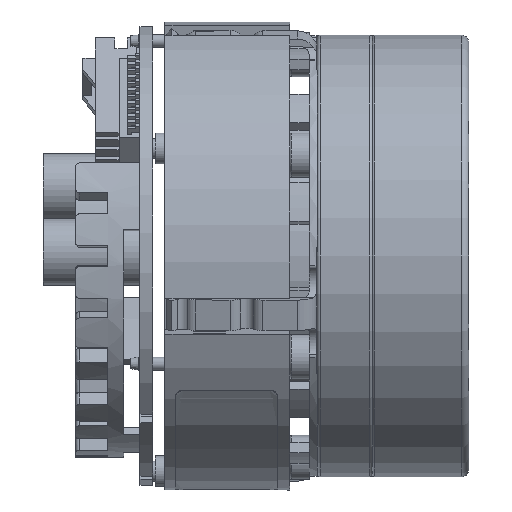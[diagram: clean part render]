
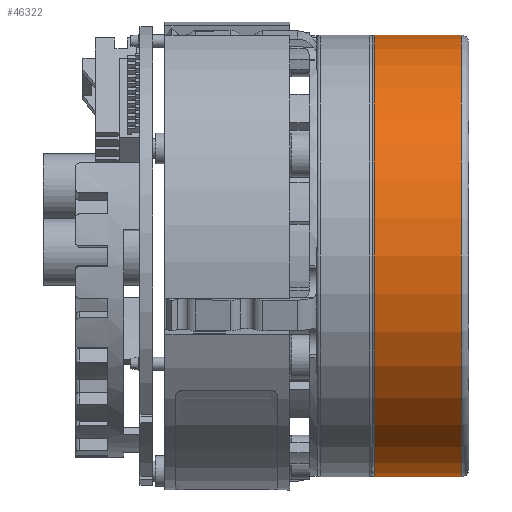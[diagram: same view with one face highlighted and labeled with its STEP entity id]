
A CAD part, front view. The second image highlights one B-rep face of the part: STEP entity #46322.
In plain terms, the highlighted cylindrical face has radius 27.4 mm (diameter 54.8 mm), a full revolution.
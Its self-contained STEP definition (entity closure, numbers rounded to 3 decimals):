
#2224 = CARTESIAN_POINT ( 'NONE',  ( 12., 0., 0. ) ) ;
#2584 = ORIENTED_EDGE ( 'NONE', *, *, #52175, .T. ) ;
#5492 = VERTEX_POINT ( 'NONE', #48035 ) ;
#7926 = AXIS2_PLACEMENT_3D ( 'NONE', #47080, #23044, #51037 ) ;
#8072 = AXIS2_PLACEMENT_3D ( 'NONE', #45618, #21548, #49607 ) ;
#10197 = DIRECTION ( 'NONE',  ( -1., 0., 0. ) ) ;
#11348 = FACE_OUTER_BOUND ( 'NONE', #45621, .T. ) ;
#15014 = CARTESIAN_POINT ( 'NONE',  ( 11.1, 0., -27.4 ) ) ;
#19747 = FACE_OUTER_BOUND ( 'NONE', #48705, .T. ) ;
#19773 = VERTEX_POINT ( 'NONE', #15014 ) ;
#21548 = DIRECTION ( 'NONE',  ( -1., 0., 0. ) ) ;
#23044 = DIRECTION ( 'NONE',  ( 1., 0., 0. ) ) ;
#29331 = CYLINDRICAL_SURFACE ( 'NONE', #33645, 27.4 ) ;
#29767 = EDGE_CURVE ( 'NONE', #19773, #19773, #30090, .T. ) ;
#30090 = CIRCLE ( 'NONE', #8072, 27.4 ) ;
#31032 = DIRECTION ( 'NONE',  ( 0., 0., 1. ) ) ;
#33010 = CIRCLE ( 'NONE', #7926, 27.4 ) ;
#33645 = AXIS2_PLACEMENT_3D ( 'NONE', #2224, #10197, #31032 ) ;
#35302 = ORIENTED_EDGE ( 'NONE', *, *, #29767, .T. ) ;
#45618 = CARTESIAN_POINT ( 'NONE',  ( 11.1, 0., 0. ) ) ;
#45621 = EDGE_LOOP ( 'NONE', ( #35302 ) ) ;
#46322 = ADVANCED_FACE ( 'NONE', ( #19747, #11348 ), #29331, .T. ) ;
#47080 = CARTESIAN_POINT ( 'NONE',  ( 0.3, 0., 0. ) ) ;
#48035 = CARTESIAN_POINT ( 'NONE',  ( 0.3, 0., -27.4 ) ) ;
#48705 = EDGE_LOOP ( 'NONE', ( #2584 ) ) ;
#49607 = DIRECTION ( 'NONE',  ( 0., 0., -1. ) ) ;
#51037 = DIRECTION ( 'NONE',  ( 0., 0., -1. ) ) ;
#52175 = EDGE_CURVE ( 'NONE', #5492, #5492, #33010, .T. ) ;
